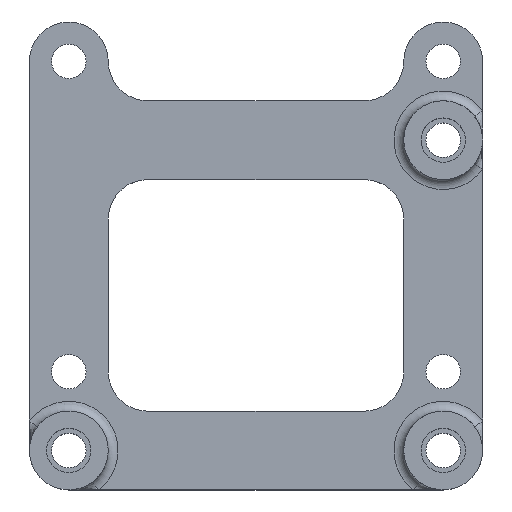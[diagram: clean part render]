
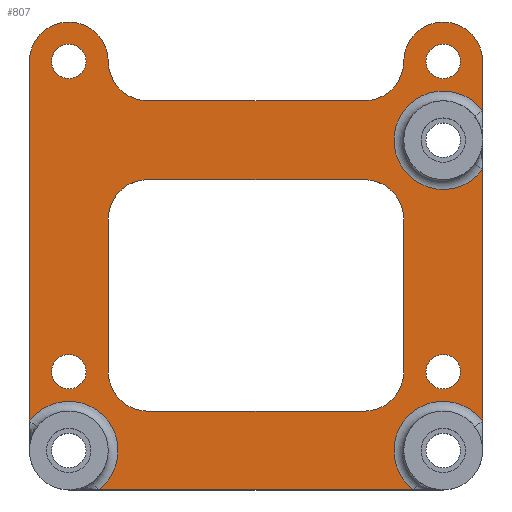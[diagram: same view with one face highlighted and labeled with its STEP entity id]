
A CAD part, top view. The second image highlights one B-rep face of the part: STEP entity #807.
In plain terms, the highlighted planar face has unit normal (0, 0, 1).
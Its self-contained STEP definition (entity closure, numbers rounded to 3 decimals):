
#124=PLANE('',#886);
#136=VECTOR('',#936,1.);
#137=VECTOR('',#937,1.);
#149=VECTOR('',#981,1.);
#160=VECTOR('',#1017,1.);
#161=VECTOR('',#1019,1.);
#162=VECTOR('',#1029,1.);
#163=VECTOR('',#1057,1.);
#164=VECTOR('',#1062,1.);
#165=VECTOR('',#1063,1.);
#171=LINE('',#1137,#136);
#172=LINE('',#1140,#137);
#184=LINE('',#1195,#149);
#195=LINE('',#1231,#160);
#196=LINE('',#1233,#161);
#197=LINE('',#1314,#162);
#198=LINE('',#1769,#163);
#199=LINE('',#1774,#164);
#200=LINE('',#1775,#165);
#202=VERTEX_POINT('',#1120);
#203=VERTEX_POINT('',#1121);
#206=VERTEX_POINT('',#1129);
#207=VERTEX_POINT('',#1130);
#210=VERTEX_POINT('',#1138);
#212=VERTEX_POINT('',#1141);
#213=VERTEX_POINT('',#1142);
#238=VERTEX_POINT('',#1196);
#239=VERTEX_POINT('',#1197);
#240=VERTEX_POINT('',#1200);
#241=VERTEX_POINT('',#1202);
#242=VERTEX_POINT('',#1206);
#243=VERTEX_POINT('',#1208);
#244=VERTEX_POINT('',#1212);
#245=VERTEX_POINT('',#1214);
#246=VERTEX_POINT('',#1218);
#247=VERTEX_POINT('',#1220);
#248=VERTEX_POINT('',#1224);
#249=VERTEX_POINT('',#1228);
#250=VERTEX_POINT('',#1236);
#258=VERTEX_POINT('',#1764);
#259=VERTEX_POINT('',#1767);
#260=VERTEX_POINT('',#1771);
#261=VERTEX_POINT('',#1773);
#274=CIRCLE('',#830,4.);
#276=CIRCLE('',#833,4.);
#293=CIRCLE('',#854,4.);
#294=CIRCLE('',#856,4.);
#295=CIRCLE('',#858,4.);
#296=CIRCLE('',#860,4.);
#297=CIRCLE('',#862,4.);
#298=CIRCLE('',#864,4.);
#302=CIRCLE('',#871,5.);
#306=CIRCLE('',#876,5.);
#310=CIRCLE('',#881,5.);
#311=CIRCLE('',#883,1.75);
#312=CIRCLE('',#885,1.75);
#313=CIRCLE('',#887,1.75);
#314=CIRCLE('',#888,1.75);
#327=EDGE_CURVE('',#202,#203,#274,.T.);
#331=EDGE_CURVE('',#206,#207,#276,.T.);
#335=EDGE_CURVE('',#203,#210,#171,.T.);
#338=EDGE_CURVE('',#212,#213,#172,.T.);
#367=EDGE_CURVE('',#238,#239,#184,.T.);
#370=EDGE_CURVE('',#240,#241,#293,.T.);
#373=EDGE_CURVE('',#242,#243,#294,.T.);
#376=EDGE_CURVE('',#244,#245,#295,.T.);
#379=EDGE_CURVE('',#246,#247,#296,.T.);
#381=EDGE_CURVE('',#207,#248,#297,.T.);
#383=EDGE_CURVE('',#249,#202,#298,.T.);
#385=EDGE_CURVE('',#240,#245,#195,.T.);
#386=EDGE_CURVE('',#242,#247,#196,.T.);
#390=EDGE_CURVE('',#239,#250,#302,.T.);
#397=EDGE_CURVE('',#213,#238,#306,.T.);
#403=EDGE_CURVE('',#210,#212,#310,.T.);
#406=EDGE_CURVE('',#258,#258,#311,.T.);
#407=EDGE_CURVE('',#259,#259,#312,.T.);
#408=EDGE_CURVE('',#248,#249,#198,.T.);
#409=EDGE_CURVE('',#250,#206,#197,.T.);
#410=EDGE_CURVE('',#260,#260,#313,.T.);
#411=EDGE_CURVE('',#261,#261,#314,.T.);
#412=EDGE_CURVE('',#244,#243,#199,.T.);
#413=EDGE_CURVE('',#246,#241,#200,.T.);
#540=ORIENTED_EDGE('',*,*,#327,.F.);
#541=ORIENTED_EDGE('',*,*,#383,.F.);
#542=ORIENTED_EDGE('',*,*,#408,.F.);
#543=ORIENTED_EDGE('',*,*,#381,.F.);
#544=ORIENTED_EDGE('',*,*,#331,.F.);
#545=ORIENTED_EDGE('',*,*,#409,.F.);
#546=ORIENTED_EDGE('',*,*,#390,.F.);
#547=ORIENTED_EDGE('',*,*,#367,.F.);
#548=ORIENTED_EDGE('',*,*,#397,.F.);
#549=ORIENTED_EDGE('',*,*,#338,.F.);
#550=ORIENTED_EDGE('',*,*,#403,.F.);
#551=ORIENTED_EDGE('',*,*,#335,.F.);
#552=ORIENTED_EDGE('',*,*,#410,.T.);
#553=ORIENTED_EDGE('',*,*,#411,.T.);
#554=ORIENTED_EDGE('',*,*,#370,.F.);
#555=ORIENTED_EDGE('',*,*,#385,.T.);
#556=ORIENTED_EDGE('',*,*,#376,.F.);
#557=ORIENTED_EDGE('',*,*,#412,.T.);
#558=ORIENTED_EDGE('',*,*,#373,.F.);
#559=ORIENTED_EDGE('',*,*,#386,.T.);
#560=ORIENTED_EDGE('',*,*,#379,.F.);
#561=ORIENTED_EDGE('',*,*,#413,.T.);
#562=ORIENTED_EDGE('',*,*,#407,.T.);
#563=ORIENTED_EDGE('',*,*,#406,.T.);
#661=EDGE_LOOP('',(#540,#541,#542,#543,#544,#545,#546,#547,#548,#549,#550,
#551));
#662=EDGE_LOOP('',(#552));
#663=EDGE_LOOP('',(#553));
#664=EDGE_LOOP('',(#554,#555,#556,#557,#558,#559,#560,#561));
#665=EDGE_LOOP('',(#562));
#666=EDGE_LOOP('',(#563));
#739=FACE_BOUND('',#661,.T.);
#740=FACE_BOUND('',#662,.T.);
#741=FACE_BOUND('',#663,.T.);
#742=FACE_BOUND('',#664,.T.);
#743=FACE_BOUND('',#665,.T.);
#744=FACE_BOUND('',#666,.T.);
#807=ADVANCED_FACE('',(#739,#740,#741,#742,#743,#744),#124,.T.);
#830=AXIS2_PLACEMENT_3D('',#1119,#921,#922);
#833=AXIS2_PLACEMENT_3D('',#1128,#929,#930);
#854=AXIS2_PLACEMENT_3D('',#1201,#985,#986);
#856=AXIS2_PLACEMENT_3D('',#1207,#991,#992);
#858=AXIS2_PLACEMENT_3D('',#1213,#997,#998);
#860=AXIS2_PLACEMENT_3D('',#1219,#1003,#1004);
#862=AXIS2_PLACEMENT_3D('',#1223,#1008,#1009);
#864=AXIS2_PLACEMENT_3D('',#1227,#1013,#1014);
#871=AXIS2_PLACEMENT_3D('',#1241,#1027,#1028);
#876=AXIS2_PLACEMENT_3D('',#1418,#1037,#1038);
#881=AXIS2_PLACEMENT_3D('',#1593,#1046,#1047);
#883=AXIS2_PLACEMENT_3D('',#1763,#1050,#1051);
#885=AXIS2_PLACEMENT_3D('',#1766,#1054,#1055);
#886=AXIS2_PLACEMENT_3D('',#1768,#1056,$);
#887=AXIS2_PLACEMENT_3D('',#1770,#1058,#1059);
#888=AXIS2_PLACEMENT_3D('',#1772,#1060,#1061);
#921=DIRECTION('',(0.,0.,-1.));
#922=DIRECTION('',(2.828,2.828,0.));
#929=DIRECTION('',(0.,0.,-1.));
#930=DIRECTION('',(-2.828,2.828,0.));
#936=DIRECTION('',(0.,-1.,0.));
#937=DIRECTION('',(0.,-1.,0.));
#981=DIRECTION('',(-1.,0.,0.));
#985=DIRECTION('',(0.,0.,1.));
#986=DIRECTION('',(-2.828,2.828,0.));
#991=DIRECTION('',(0.,0.,1.));
#992=DIRECTION('',(2.828,-2.828,0.));
#997=DIRECTION('',(0.,0.,1.));
#998=DIRECTION('',(2.828,2.828,0.));
#1003=DIRECTION('',(0.,0.,1.));
#1004=DIRECTION('',(-2.828,-2.828,0.));
#1008=DIRECTION('',(0.,0.,1.));
#1009=DIRECTION('',(-2.828,-2.828,0.));
#1013=DIRECTION('',(0.,0.,1.));
#1014=DIRECTION('',(2.828,-2.828,0.));
#1017=DIRECTION('',(1.,0.,0.));
#1019=DIRECTION('',(-1.,0.,0.));
#1027=DIRECTION('',(0.,0.,1.));
#1028=DIRECTION('',(3.536,3.536,0.));
#1029=DIRECTION('',(0.,1.,0.));
#1037=DIRECTION('',(0.,0.,1.));
#1038=DIRECTION('',(-3.536,3.536,0.));
#1046=DIRECTION('',(0.,0.,1.));
#1047=DIRECTION('',(-5.,0.,0.));
#1050=DIRECTION('',(0.,0.,-1.));
#1051=DIRECTION('',(1.75,0.,0.));
#1054=DIRECTION('',(0.,0.,-1.));
#1055=DIRECTION('',(1.75,0.,0.));
#1056=DIRECTION('',(0.,0.,1.));
#1057=DIRECTION('',(1.,0.,0.));
#1058=DIRECTION('',(0.,0.,-1.));
#1059=DIRECTION('',(1.75,0.,0.));
#1060=DIRECTION('',(0.,0.,-1.));
#1061=DIRECTION('',(1.75,0.,0.));
#1062=DIRECTION('',(0.,-1.,0.));
#1063=DIRECTION('',(0.,1.,0.));
#1119=CARTESIAN_POINT('',(38.,39.5,2.));
#1120=CARTESIAN_POINT('',(34.,39.5,2.));
#1121=CARTESIAN_POINT('',(42.,39.5,2.));
#1128=CARTESIAN_POINT('',(0.,39.5,2.));
#1129=CARTESIAN_POINT('',(-4.,39.5,2.));
#1130=CARTESIAN_POINT('',(4.,39.5,2.));
#1137=CARTESIAN_POINT('',(42.,19.75,2.));
#1138=CARTESIAN_POINT('',(42.,34.5,2.));
#1140=CARTESIAN_POINT('',(42.,-4.,2.));
#1141=CARTESIAN_POINT('',(42.,28.5,2.));
#1142=CARTESIAN_POINT('',(42.,3.,2.));
#1195=CARTESIAN_POINT('',(-4.,-4.,2.));
#1196=CARTESIAN_POINT('',(35.,-4.,2.));
#1197=CARTESIAN_POINT('',(3.,-4.,2.));
#1200=CARTESIAN_POINT('',(8.,27.5,2.));
#1201=CARTESIAN_POINT('',(8.,23.5,2.));
#1202=CARTESIAN_POINT('',(4.,23.5,2.));
#1206=CARTESIAN_POINT('',(30.,4.,2.));
#1207=CARTESIAN_POINT('',(30.,8.,2.));
#1208=CARTESIAN_POINT('',(34.,8.,2.));
#1212=CARTESIAN_POINT('',(34.,23.5,2.));
#1213=CARTESIAN_POINT('',(30.,23.5,2.));
#1214=CARTESIAN_POINT('',(30.,27.5,2.));
#1218=CARTESIAN_POINT('',(4.,8.,2.));
#1219=CARTESIAN_POINT('',(8.,8.,2.));
#1220=CARTESIAN_POINT('',(8.,4.,2.));
#1223=CARTESIAN_POINT('',(8.,39.5,2.));
#1224=CARTESIAN_POINT('',(8.,35.5,2.));
#1227=CARTESIAN_POINT('',(30.,39.5,2.));
#1228=CARTESIAN_POINT('',(30.,35.5,2.));
#1231=CARTESIAN_POINT('',(19.,27.5,2.));
#1233=CARTESIAN_POINT('',(19.,4.,2.));
#1236=CARTESIAN_POINT('',(-4.,3.,2.));
#1241=CARTESIAN_POINT('',(0.,0.,2.));
#1314=CARTESIAN_POINT('',(-4.,35.5,2.));
#1418=CARTESIAN_POINT('',(38.,0.,2.));
#1593=CARTESIAN_POINT('',(38.,31.5,2.));
#1763=CARTESIAN_POINT('',(38.,39.5,2.));
#1764=CARTESIAN_POINT('',(36.25,39.5,2.));
#1766=CARTESIAN_POINT('',(38.,8.,2.));
#1767=CARTESIAN_POINT('',(36.25,8.,2.));
#1768=CARTESIAN_POINT('',(19.,15.75,2.));
#1769=CARTESIAN_POINT('',(42.,35.5,2.));
#1770=CARTESIAN_POINT('',(0.,39.5,2.));
#1771=CARTESIAN_POINT('',(-1.75,39.5,2.));
#1772=CARTESIAN_POINT('',(0.,8.,2.));
#1773=CARTESIAN_POINT('',(-1.75,8.,2.));
#1774=CARTESIAN_POINT('',(34.,15.75,2.));
#1775=CARTESIAN_POINT('',(4.,15.75,2.));
